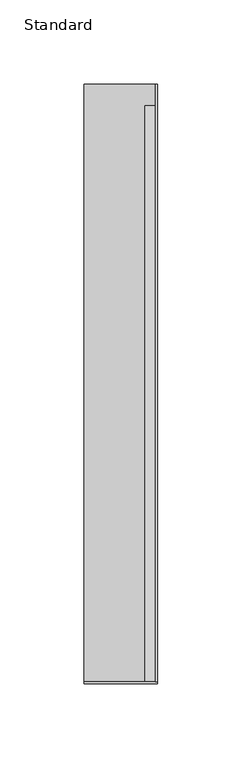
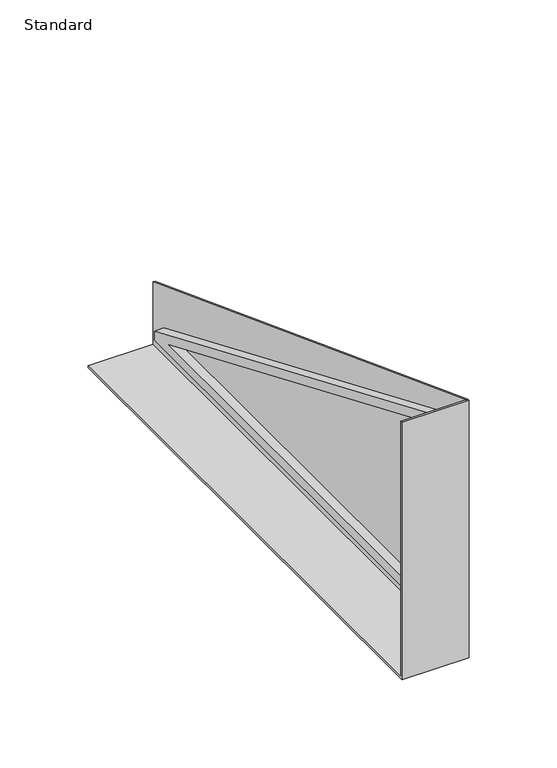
"""IFC4 building model written with IfcOpenShell, lengths in millimetres: electric appliance geometry, Bracket-Cantilever-Cablofil-Fas_Profile : Standard."""

from ifc_helpers import new_model, si_unit, origin, place, context, project, spatial, faceted_brep, source, transform, mapped, element, save


def standard_755d2ce0(model_context):
    return source(origin(), model_context, "Body", "Brep", [
        faceted_brep([(20.574, 177.8, 44.45), (20.574, 177.8, 1.27), (20.574, -176.6, 1.27), (20.574, -176.6, 13.97), (20.574, 165.1, 13.97), (20.574, 165.1, 20.32), (20.574, -176.6, 165.1), (20.574, -176.6, 177.8), (20.574, -176.6, 20.32), (20.574, -176.6, 158.75), (20.574, 150.1131579, 20.32), (21.844, -176.6, 177.8), (21.844, 177.8, 44.45), (21.844, -177.8, 177.8), (21.844, -177.8, 0.0), (21.844, 177.8, 0.0), (-21.844, -176.6, 177.8), (-21.844, -176.6, 1.27), (-21.844, 177.8, 1.27), (-21.844, 177.8, 0.0), (-21.844, -177.8, 0.0), (-21.844, -177.8, 177.8), (14.224, -176.6, 165.1), (14.224, -176.6, 158.75), (14.224, -176.6, 20.32), (14.224, -176.6, 13.97), (14.224, 165.1, 20.32), (14.224, 165.1, 13.97), (14.224, 150.1131579, 20.32)], [[[0, 1, 2, 3, 4, 5, 6, 7]], [[8, 9, 10]], [[11, 12, 0, 7]], [[11, 13, 14, 15, 12]], [[16, 17, 18, 19, 20, 21]], [[13, 11, 7, 16, 21]], [[14, 13, 21, 20]], [[15, 14, 20, 19]], [[19, 18, 1, 0, 12, 15]], [[18, 17, 2, 1]], [[17, 16, 7, 6, 22, 23, 9, 8, 24, 25, 3, 2]], [[26, 27, 25, 24, 28, 23, 22]], [[26, 22, 6, 5]], [[23, 28, 10, 9]], [[28, 24, 8, 10]], [[25, 27, 4, 3]], [[27, 26, 5, 4]]]),
    ])


if __name__ == "__main__":
    model = new_model("IFC4")
    model_context = context("Model", 3, world=origin())
    ifc_project = project(units=[si_unit("LENGTHUNIT", "METRE", prefix="MILLI")], contexts=[model_context])
    site = spatial("IfcSite", under=ifc_project)
    building = spatial("IfcBuilding", under=site)
    placement = place(None, origin())
    standard_shape = standard_755d2ce0(model_context)
    element("IfcElectricAppliance", 1, ObjectType="Bracket-Cantilever-Cablofil-Fas_Profile : Standard", at=placement, inside=building, context=model_context, shape_type="MappedRepresentation", body=[
        mapped(standard_shape, transform((0.0, 0.0, 0.0), x_axis=(1.0, 0.0, 0.0), y_axis=(0.0, 1.0, 0.0), z_axis=(0.0, 0.0, 1.0))),
    ])
    save(model, "model.ifc")
